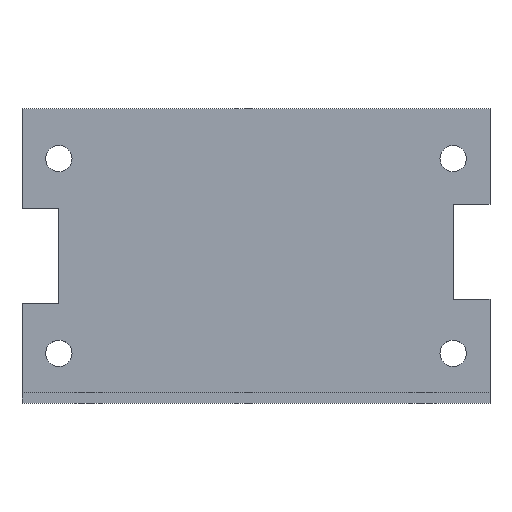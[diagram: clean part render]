
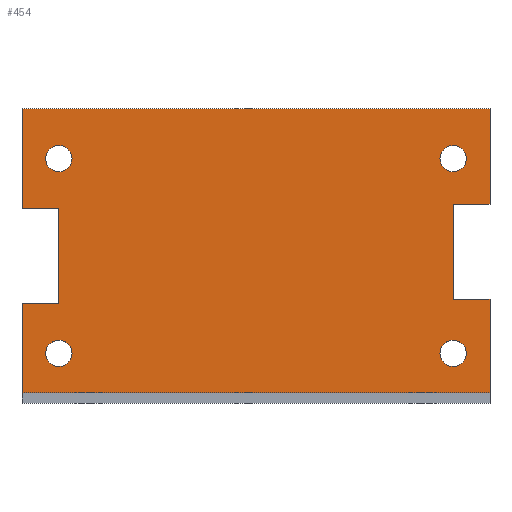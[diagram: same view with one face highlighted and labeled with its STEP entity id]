
A CAD part, top view. The second image highlights one B-rep face of the part: STEP entity #454.
In plain terms, the highlighted planar face has unit normal (0, 0, 1).
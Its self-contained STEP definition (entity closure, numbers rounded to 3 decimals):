
#29=FACE_BOUND('',#97,.T.);
#30=FACE_BOUND('',#98,.T.);
#31=FACE_BOUND('',#99,.T.);
#32=FACE_BOUND('',#100,.T.);
#41=CIRCLE('',#485,1.25);
#42=CIRCLE('',#487,1.25);
#43=CIRCLE('',#489,1.25);
#44=CIRCLE('',#491,1.25);
#66=FACE_OUTER_BOUND('',#96,.T.);
#96=EDGE_LOOP('',(#401,#402,#403,#404,#405,#406,#407,#408,#409,#410,#411,
#412));
#97=EDGE_LOOP('',(#413));
#98=EDGE_LOOP('',(#414));
#99=EDGE_LOOP('',(#415));
#100=EDGE_LOOP('',(#416));
#101=LINE('',#625,#149);
#112=LINE('',#655,#160);
#125=LINE('',#689,#173);
#133=LINE('',#712,#181);
#135=LINE('',#716,#183);
#137=LINE('',#719,#185);
#138=LINE('',#723,#186);
#140=LINE('',#727,#188);
#142=LINE('',#731,#190);
#144=LINE('',#735,#192);
#146=LINE('',#739,#194);
#148=LINE('',#742,#196);
#149=VECTOR('',#507,10.);
#160=VECTOR('',#534,10.);
#173=VECTOR('',#559,10.);
#181=VECTOR('',#585,10.);
#183=VECTOR('',#589,10.);
#185=VECTOR('',#593,10.);
#186=VECTOR('',#598,10.);
#188=VECTOR('',#602,10.);
#190=VECTOR('',#606,10.);
#192=VECTOR('',#610,10.);
#194=VECTOR('',#614,10.);
#196=VECTOR('',#618,10.);
#197=VERTEX_POINT('',#623);
#198=VERTEX_POINT('',#624);
#209=VERTEX_POINT('',#653);
#224=VERTEX_POINT('',#688);
#225=VERTEX_POINT('',#693);
#226=VERTEX_POINT('',#697);
#227=VERTEX_POINT('',#701);
#228=VERTEX_POINT('',#705);
#229=VERTEX_POINT('',#709);
#230=VERTEX_POINT('',#711);
#231=VERTEX_POINT('',#715);
#232=VERTEX_POINT('',#722);
#233=VERTEX_POINT('',#726);
#234=VERTEX_POINT('',#730);
#235=VERTEX_POINT('',#734);
#236=VERTEX_POINT('',#738);
#237=EDGE_CURVE('',#197,#198,#101,.T.);
#252=EDGE_CURVE('',#198,#209,#112,.T.);
#269=EDGE_CURVE('',#224,#197,#125,.T.);
#272=EDGE_CURVE('',#225,#225,#41,.T.);
#274=EDGE_CURVE('',#226,#226,#42,.T.);
#276=EDGE_CURVE('',#227,#227,#43,.T.);
#278=EDGE_CURVE('',#228,#228,#44,.T.);
#281=EDGE_CURVE('',#230,#229,#133,.T.);
#283=EDGE_CURVE('',#231,#230,#135,.T.);
#285=EDGE_CURVE('',#209,#231,#137,.T.);
#286=EDGE_CURVE('',#232,#224,#138,.T.);
#288=EDGE_CURVE('',#233,#232,#140,.T.);
#290=EDGE_CURVE('',#234,#233,#142,.T.);
#292=EDGE_CURVE('',#235,#234,#144,.T.);
#294=EDGE_CURVE('',#236,#235,#146,.T.);
#296=EDGE_CURVE('',#229,#236,#148,.T.);
#401=ORIENTED_EDGE('',*,*,#237,.T.);
#402=ORIENTED_EDGE('',*,*,#252,.T.);
#403=ORIENTED_EDGE('',*,*,#285,.T.);
#404=ORIENTED_EDGE('',*,*,#283,.T.);
#405=ORIENTED_EDGE('',*,*,#281,.T.);
#406=ORIENTED_EDGE('',*,*,#296,.T.);
#407=ORIENTED_EDGE('',*,*,#294,.T.);
#408=ORIENTED_EDGE('',*,*,#292,.T.);
#409=ORIENTED_EDGE('',*,*,#290,.T.);
#410=ORIENTED_EDGE('',*,*,#288,.T.);
#411=ORIENTED_EDGE('',*,*,#286,.T.);
#412=ORIENTED_EDGE('',*,*,#269,.T.);
#413=ORIENTED_EDGE('',*,*,#278,.T.);
#414=ORIENTED_EDGE('',*,*,#276,.T.);
#415=ORIENTED_EDGE('',*,*,#274,.T.);
#416=ORIENTED_EDGE('',*,*,#272,.T.);
#432=PLANE('',#502);
#454=ADVANCED_FACE('',(#66,#29,#30,#31,#32),#432,.T.);
#485=AXIS2_PLACEMENT_3D('',#694,#564,#565);
#487=AXIS2_PLACEMENT_3D('',#698,#569,#570);
#489=AXIS2_PLACEMENT_3D('',#702,#574,#575);
#491=AXIS2_PLACEMENT_3D('',#706,#579,#580);
#502=AXIS2_PLACEMENT_3D('',#743,#619,#620);
#507=DIRECTION('',(1.,0.,0.));
#534=DIRECTION('',(0.,1.,0.));
#559=DIRECTION('',(0.,-1.,0.));
#564=DIRECTION('center_axis',(0.,0.,-1.));
#565=DIRECTION('ref_axis',(1.,0.,0.));
#569=DIRECTION('center_axis',(0.,0.,-1.));
#570=DIRECTION('ref_axis',(1.,0.,0.));
#574=DIRECTION('center_axis',(0.,0.,-1.));
#575=DIRECTION('ref_axis',(1.,0.,0.));
#579=DIRECTION('center_axis',(0.,0.,-1.));
#580=DIRECTION('ref_axis',(1.,0.,0.));
#585=DIRECTION('',(1.,0.,0.));
#589=DIRECTION('',(0.,1.,0.));
#593=DIRECTION('',(-1.,0.,0.));
#598=DIRECTION('',(-1.,0.,0.));
#602=DIRECTION('',(0.,-1.,0.));
#606=DIRECTION('',(1.,0.,0.));
#610=DIRECTION('',(0.,-1.,0.));
#614=DIRECTION('',(-1.,0.,0.));
#618=DIRECTION('',(0.,1.,0.));
#619=DIRECTION('center_axis',(0.,0.,1.));
#620=DIRECTION('ref_axis',(1.,0.,0.));
#623=CARTESIAN_POINT('',(4.7,7.25,1.));
#624=CARTESIAN_POINT('',(49.15,7.25,1.));
#625=CARTESIAN_POINT('',(38.037,7.25,1.));
#653=CARTESIAN_POINT('',(49.15,16.159,1.));
#655=CARTESIAN_POINT('',(49.15,6.25,1.));
#688=CARTESIAN_POINT('',(4.7,15.75,1.));
#689=CARTESIAN_POINT('',(4.7,15.75,1.));
#693=CARTESIAN_POINT('',(44.4,11.,1.));
#694=CARTESIAN_POINT('Origin',(45.65,11.,1.));
#697=CARTESIAN_POINT('',(6.95,29.5,1.));
#698=CARTESIAN_POINT('Origin',(8.2,29.5,1.));
#701=CARTESIAN_POINT('',(44.4,29.5,1.));
#702=CARTESIAN_POINT('Origin',(45.65,29.5,1.));
#705=CARTESIAN_POINT('',(6.95,11.,1.));
#706=CARTESIAN_POINT('Origin',(8.2,11.,1.));
#709=CARTESIAN_POINT('',(49.15,25.159,1.));
#711=CARTESIAN_POINT('',(45.65,25.159,1.));
#712=CARTESIAN_POINT('',(49.15,25.159,1.));
#715=CARTESIAN_POINT('',(45.65,16.159,1.));
#716=CARTESIAN_POINT('',(45.65,25.159,1.));
#719=CARTESIAN_POINT('',(45.65,16.159,1.));
#722=CARTESIAN_POINT('',(8.2,15.75,1.));
#723=CARTESIAN_POINT('',(8.2,15.75,1.));
#726=CARTESIAN_POINT('',(8.2,24.75,1.));
#727=CARTESIAN_POINT('',(8.2,24.75,1.));
#730=CARTESIAN_POINT('',(4.7,24.75,1.));
#731=CARTESIAN_POINT('',(4.7,24.75,1.));
#734=CARTESIAN_POINT('',(4.7,34.25,1.));
#735=CARTESIAN_POINT('',(4.7,34.25,1.));
#738=CARTESIAN_POINT('',(49.15,34.25,1.));
#739=CARTESIAN_POINT('',(49.15,34.25,1.));
#742=CARTESIAN_POINT('',(49.15,25.159,1.));
#743=CARTESIAN_POINT('Origin',(26.925,20.25,1.));
